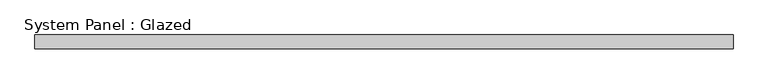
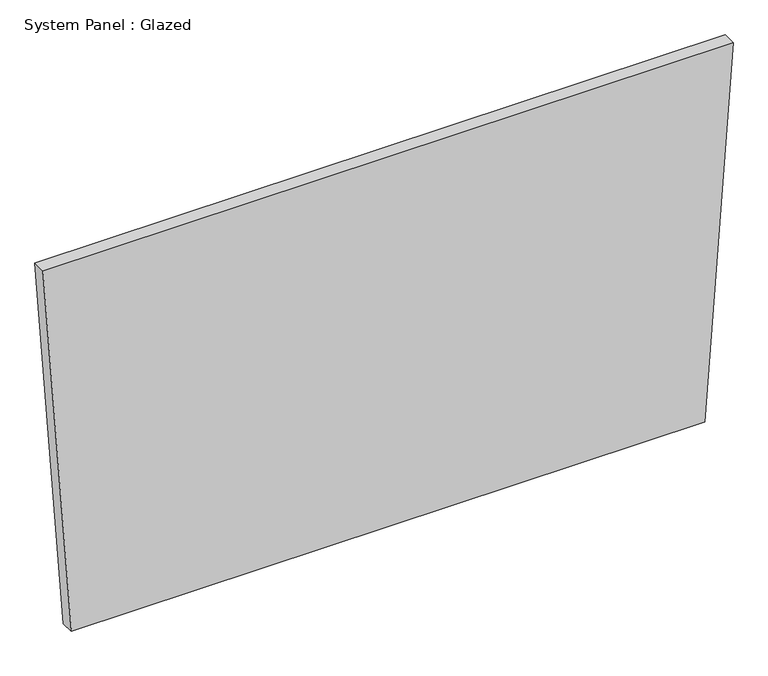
"""IFC4 building model written with IfcOpenShell, lengths in millimetres: plate geometry, System Panel : Glazed."""

from ifc_helpers import new_model, si_unit, frame, origin, place, context, project, spatial, polyline, outline, extrude, source, transform, mapped, element, save


def system_panel_glazed_4bb69ba0(model_context):
    return source(origin(), model_context, "Body", "SweptSolid", [
        extrude(outline(polyline([(0.0, -585.2264206), (0.0027267, 585.2264027), (722.9899072, 637.9079104), (722.986935, -637.9079104), (0.0, -585.2264206)])), frame((0.0, 19.05, 0.0), z_axis=(0.0, 1.0, 0.0), x_axis=(0.0, 0.0, 1.0)), (0.0, 0.0, 1.0), 25.4),
    ])


if __name__ == "__main__":
    model = new_model("IFC4")
    model_context = context("Model", 3, world=origin())
    ifc_project = project(units=[si_unit("LENGTHUNIT", "METRE", prefix="MILLI")], contexts=[model_context])
    site = spatial("IfcSite", under=ifc_project)
    building = spatial("IfcBuilding", under=site)
    placement = place(None, origin())
    system_panel_glazed_shape = system_panel_glazed_4bb69ba0(model_context)
    element("IfcPlate", 1, ObjectType="System Panel : Glazed", at=placement, inside=building, context=model_context, shape_type="MappedRepresentation", body=[
        mapped(system_panel_glazed_shape, transform((0.0, 0.0, 0.0), x_axis=(1.0, 0.0, 0.0), y_axis=(0.0, 1.0, 0.0), z_axis=(0.0, 0.0, 1.0))),
    ])
    save(model, "model.ifc")
